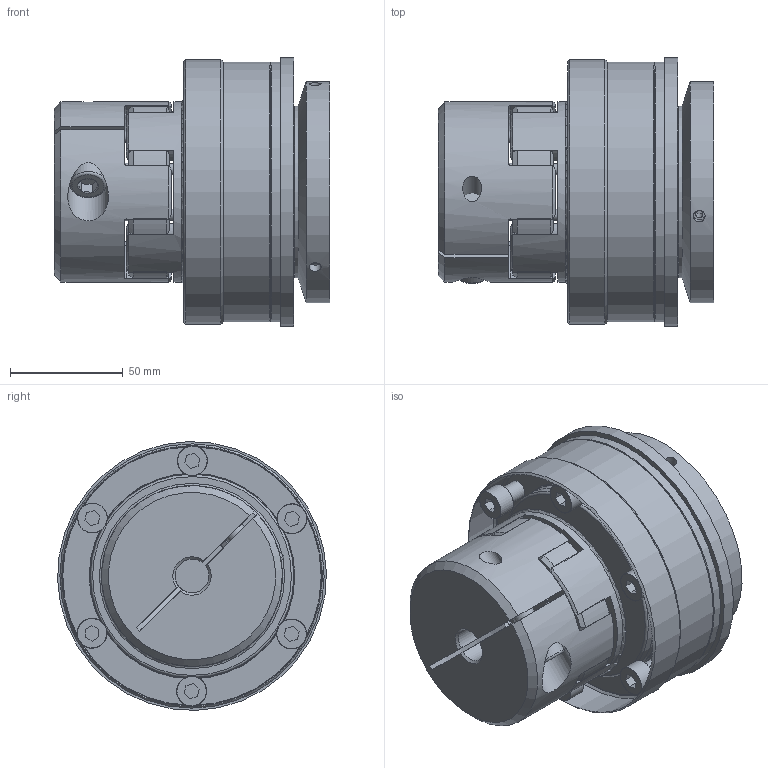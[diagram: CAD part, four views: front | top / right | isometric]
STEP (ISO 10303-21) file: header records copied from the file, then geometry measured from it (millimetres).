
FILE_DESCRIPTION( ( 'Unknown' ), '1' );
FILE_NAME( 'C:/Users/skarpstein/Desktop/Korrigierte 3D Modelle/KBK-E-KP/KBK EKP-38-120.stp', 'Unknown', ( 'Unknown' ), ( 'Unknown' ), 'PSStep 16.0.42', 'Unknown', ' ' );
FILE_SCHEMA( ( 'AUTOMOTIVE_DESIGN { 1 0 10303 214 1 1 1 1 }' ) );
Length unit declared in the file: millimetre
Products named in the file (27): ball_bearing_-_6011_0_03; ball_bearing_-_6011_0_02; ball_bearing_-_6011_0_01; Zylinderschraube DIN 912_1; a_55; Assem3_0; Elastomerflansch 38; Assem1_2; Kupplung L-P-300 Grundkörper; Zahnkranz_38_Standard; Stellring 300; Flansch 300; Druckring 300; Assem1; KBE 2C - 38_Nabe; ISO EN DIN 4762 M10x35
Assembly tree (31 placements, depth 4):
  Assem1
    KBE 2C - 38_Nabe
    ISO EN DIN 4762 M10x35
    Stellring 300
      Stellring 300
    Druckring 300
      Druckring 300
    Flansch 300
      Flansch 300
    a_55
      a_55
    Zahnkranz_38_Standard
      Zahnkranz_38_Standard
    Kupplung L-P-300 Grundkörper
      Kupplung L-P-300 Grundkörper
    Elastomerflansch 38
      Elastomerflansch 38
    Assem1_2
      ball_bearing_-_6011_0_01
        ball_bearing_-_6011_0_01
      ball_bearing_-_6011_0_02
        ball_bearing_-_6011_0_02
      ball_bearing_-_6011_0_03
        ball_bearing_-_6011_0_03
    Assem3_0  x6
      Zylinderschraube DIN 912_1
        Zylinderschraube DIN 912_1
Bounding box: 122 x 118.96 x 118.96 mm (x, y, z)
Volume: 770266.5 mm3; surface area: 211820.9 mm2
Topology: 18 solids, 18 shells, 447 faces, 997 edges, 626 vertices
Faces by surface type: plane 154, cylinder 150, cone 118, torus 25
Full cylindrical faces by diameter (mm): 2.5 x2, 3.242 x3, 5 x8, 5.2 x3, 6.647 x6, 8 x6, 8.2 x6, 8.376 x1, 9 x1, 10 x2, 11 x1, 13 x6, 13.2 x6, 16 x1, 18 x1, 38 x2, 40 x1, 52 x1, 55 x3, 56 x1, 66.3 x2, 70 x1, 76 x2, 79.1 x2, 80 x1, 83.5 x1, 88 x1, 90 x3, 98 x1, 98.5 x1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
Entity records: 14389 total; most frequent: CARTESIAN_POINT 2699, DIRECTION 1869, ORIENTED_EDGE 1450, AXIS2_PLACEMENT_3D 862, EDGE_CURVE 725, EDGE_LOOP 561, VERTEX_POINT 510, FACE_OUTER_BOUND 466
